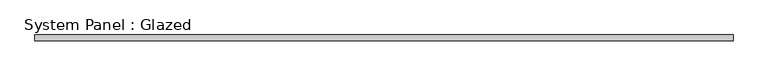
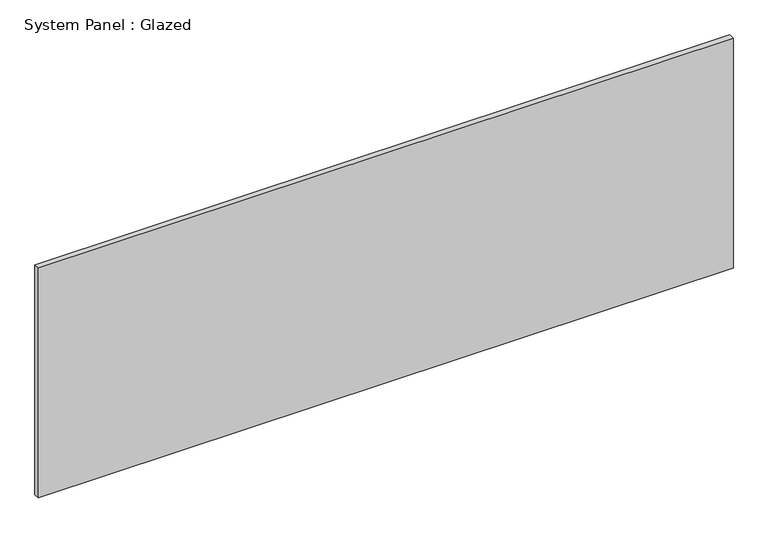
"""IFC4 building model written with IfcOpenShell, lengths in millimetres: plate geometry, System Panel : Glazed."""

from ifc_helpers import new_model, si_unit, origin, origin_with_axes, place, context, project, spatial, polyline, outline, extrude, source, transform, mapped, element, save


def system_panel_glazed_6aa71138(model_context):
    return source(origin(), model_context, "Body", "SweptSolid", [
        extrude(outline(polyline([(1524.0, 19.05), (-1524.0, 19.05), (-1524.0, 44.45), (1524.0, 44.45), (1524.0, 19.05)])), origin_with_axes(), (0.0, 0.0, 1.0), 1066.8),
    ])


if __name__ == "__main__":
    model = new_model("IFC4")
    model_context = context("Model", 3, world=origin())
    ifc_project = project(units=[si_unit("LENGTHUNIT", "METRE", prefix="MILLI")], contexts=[model_context])
    site = spatial("IfcSite", under=ifc_project)
    building = spatial("IfcBuilding", under=site)
    placement = place(None, origin())
    system_panel_glazed_shape = system_panel_glazed_6aa71138(model_context)
    element("IfcPlate", 1, ObjectType="System Panel : Glazed", at=placement, inside=building, context=model_context, shape_type="MappedRepresentation", body=[
        mapped(system_panel_glazed_shape, transform((0.0, 0.0, 0.0), x_axis=(1.0, 0.0, 0.0), y_axis=(0.0, 1.0, 0.0), z_axis=(0.0, 0.0, 1.0))),
    ])
    save(model, "model.ifc")
